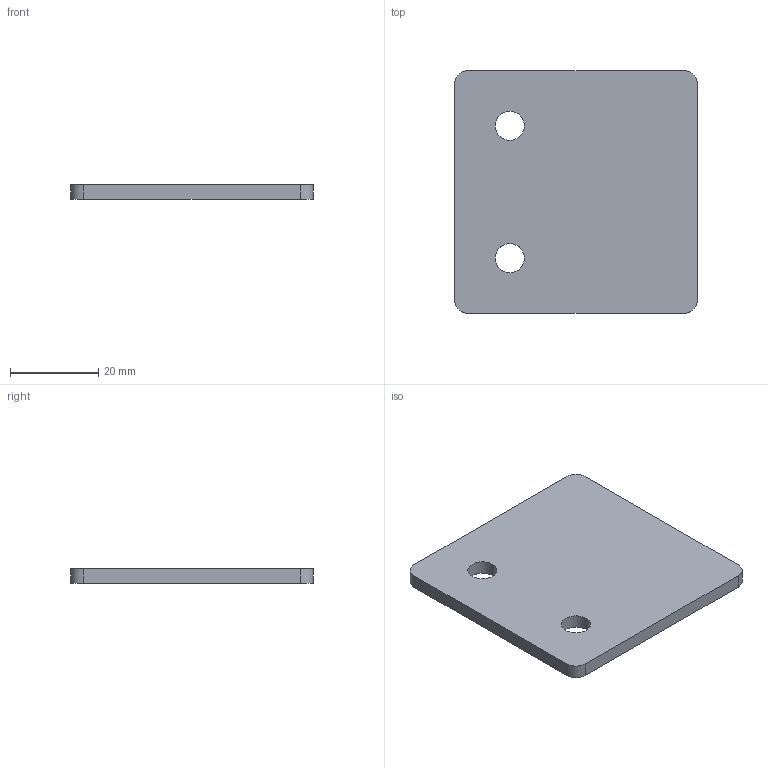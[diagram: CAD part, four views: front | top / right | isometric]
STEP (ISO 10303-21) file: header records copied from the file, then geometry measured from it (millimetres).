
FILE_DESCRIPTION (( 'STEP AP203' ), '1' );
FILE_NAME ('J3DRS.STEP', '2023-03-31T04:50:42', ( '' ), ( '' ), 'SwSTEP 2.0', 'SolidWorks 2019', '' );
FILE_SCHEMA (( 'CONFIG_CONTROL_DESIGN' ));
Length unit declared in the file: millimetre
Products named in the file (1): J3DRS
Bounding box: 55 x 55 x 3.2 mm (x, y, z)
Volume: 9436.3 mm3; surface area: 6717.9 mm2
Topology: 1 solids, 1 shells, 14 faces, 36 edges, 24 vertices
Faces by surface type: cylinder 8, plane 6
Entity records: 521 total; most frequent: DIRECTION 82, CARTESIAN_POINT 75, ORIENTED_EDGE 72, EDGE_CURVE 36, AXIS2_PLACEMENT_3D 31, VERTEX_POINT 24, VECTOR 20, LINE 20
